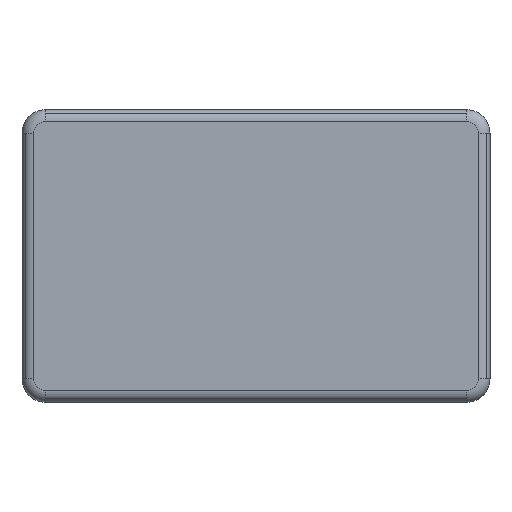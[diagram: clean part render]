
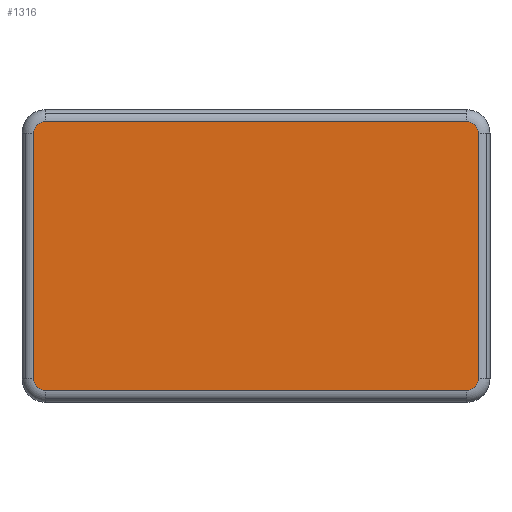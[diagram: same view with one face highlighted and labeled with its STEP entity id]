
A CAD part, front view. The second image highlights one B-rep face of the part: STEP entity #1316.
In plain terms, the highlighted planar face has unit normal (0, -1, 0).
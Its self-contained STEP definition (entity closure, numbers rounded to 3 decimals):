
#1316=ADVANCED_FACE('',(#3531),#3532,.F.);
#3531=FACE_OUTER_BOUND('',#5750,.T.);
#3532=PLANE('',#5751);
#5750=EDGE_LOOP('',(#15410,#15411,#15412,#15413,#15414,#15415,#15416,#15417));
#5751=AXIS2_PLACEMENT_3D('',#15418,#15419,#15420);
#15410=ORIENTED_EDGE('',*,*,#18632,.F.);
#15411=ORIENTED_EDGE('',*,*,#18566,.F.);
#15412=ORIENTED_EDGE('',*,*,#18646,.F.);
#15413=ORIENTED_EDGE('',*,*,#18570,.F.);
#15414=ORIENTED_EDGE('',*,*,#18643,.F.);
#15415=ORIENTED_EDGE('',*,*,#18574,.F.);
#15416=ORIENTED_EDGE('',*,*,#18638,.F.);
#15417=ORIENTED_EDGE('',*,*,#18578,.F.);
#15418=CARTESIAN_POINT('',(0.,-1.6,0.));
#15419=DIRECTION('',(0.,1.0,0.));
#15420=DIRECTION('',(0.0,0.,1.0));
#18566=EDGE_CURVE('',#23815,#23817,#23818,.T.);
#18570=EDGE_CURVE('',#23823,#23825,#23826,.T.);
#18574=EDGE_CURVE('',#23831,#23833,#23834,.T.);
#18578=EDGE_CURVE('',#23839,#23841,#23842,.T.);
#18632=EDGE_CURVE('',#23817,#23839,#23927,.T.);
#18638=EDGE_CURVE('',#23841,#23831,#23934,.T.);
#18643=EDGE_CURVE('',#23833,#23823,#23939,.T.);
#18646=EDGE_CURVE('',#23825,#23815,#23942,.T.);
#23815=VERTEX_POINT('',#32136);
#23817=VERTEX_POINT('',#32138);
#23818=LINE('',#32139,#32140);
#23823=VERTEX_POINT('',#32146);
#23825=VERTEX_POINT('',#32148);
#23826=LINE('',#32149,#32150);
#23831=VERTEX_POINT('',#32156);
#23833=VERTEX_POINT('',#32158);
#23834=LINE('',#32159,#32160);
#23839=VERTEX_POINT('',#32166);
#23841=VERTEX_POINT('',#32168);
#23842=LINE('',#32169,#32170);
#23927=CIRCLE('',#32276,0.02);
#23934=CIRCLE('',#32284,0.02);
#23939=CIRCLE('',#32290,0.02);
#23942=CIRCLE('',#32293,0.02);
#32136=CARTESIAN_POINT('',(-0.36,-1.6,0.23));
#32138=CARTESIAN_POINT('',(0.36,-1.6,0.23));
#32139=CARTESIAN_POINT('',(-0.18,-1.6,0.23));
#32140=VECTOR('',#35552,1.0);
#32146=CARTESIAN_POINT('',(-0.38,-1.6,-0.21));
#32148=CARTESIAN_POINT('',(-0.38,-1.6,0.21));
#32149=CARTESIAN_POINT('',(-0.38,-1.6,-0.105));
#32150=VECTOR('',#35560,1.0);
#32156=CARTESIAN_POINT('',(0.36,-1.6,-0.23));
#32158=CARTESIAN_POINT('',(-0.36,-1.6,-0.23));
#32159=CARTESIAN_POINT('',(0.18,-1.6,-0.23));
#32160=VECTOR('',#35568,1.0);
#32166=CARTESIAN_POINT('',(0.38,-1.6,0.21));
#32168=CARTESIAN_POINT('',(0.38,-1.6,-0.21));
#32169=CARTESIAN_POINT('',(0.38,-1.6,0.105));
#32170=VECTOR('',#35576,1.0);
#32276=AXIS2_PLACEMENT_3D('',#35694,#35695,#35696);
#32284=AXIS2_PLACEMENT_3D('',#35710,#35711,#35712);
#32290=AXIS2_PLACEMENT_3D('',#35723,#35724,#35725);
#32293=AXIS2_PLACEMENT_3D('',#35732,#35733,#35734);
#35552=DIRECTION('',(1.0,0.,0.0));
#35560=DIRECTION('',(0.0,0.,1.0));
#35568=DIRECTION('',(-1.0,0.,0.0));
#35576=DIRECTION('',(0.0,0.,-1.0));
#35694=CARTESIAN_POINT('',(0.36,-1.6,0.21));
#35695=DIRECTION('',(0.,1.0,0.));
#35696=DIRECTION('',(0.707,0.,0.707));
#35710=CARTESIAN_POINT('',(0.36,-1.6,-0.21));
#35711=DIRECTION('',(0.,1.0,0.));
#35712=DIRECTION('',(0.707,0.,-0.707));
#35723=CARTESIAN_POINT('',(-0.36,-1.6,-0.21));
#35724=DIRECTION('',(0.,1.0,0.));
#35725=DIRECTION('',(-0.707,0.,-0.707));
#35732=CARTESIAN_POINT('',(-0.36,-1.6,0.21));
#35733=DIRECTION('',(0.,1.0,0.));
#35734=DIRECTION('',(-0.707,0.,0.707));
